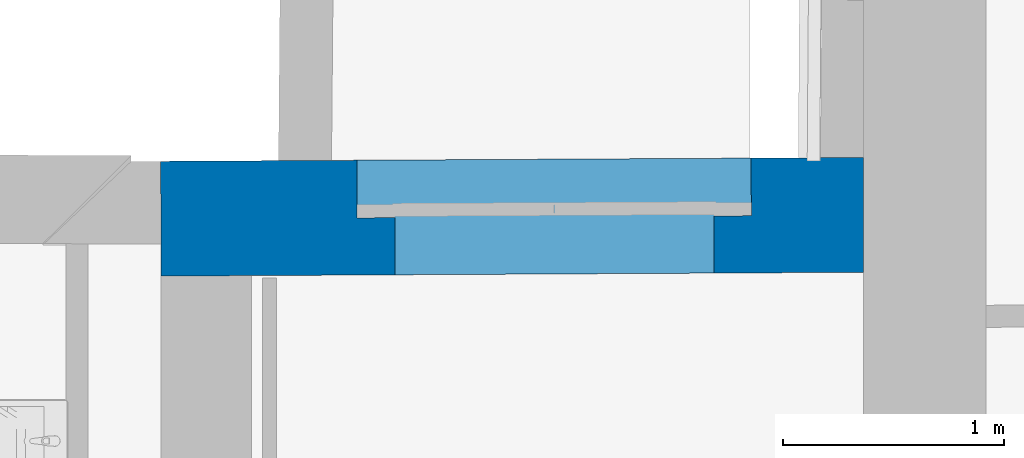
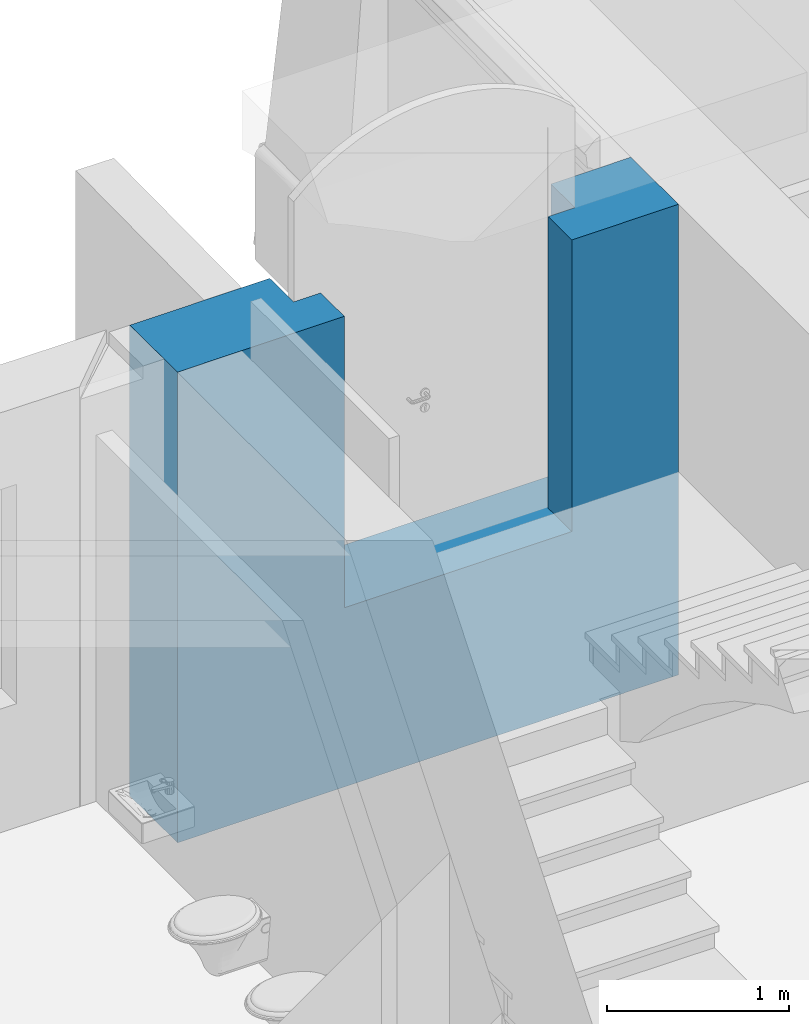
# One storey, part 64 of 196: 1 wall, 1 opening.
"""IFC2X3 building model written with IfcOpenShell, lengths in metres."""

from ifc_helpers import new_model, entity, si_unit, converted_unit, derived_unit, money_unit, direction, frame, origin_with_axes, place, context, subcontext, project, spatial, polyline, outline, extrude, boolean, faceted_brep, material, type_object, element, save


model = new_model("IFC2X3")

# Units and contexts
model_context = context("Model", 3, precision=1e-05, world=origin_with_axes(), true_north=direction((0.0, 1.0)))
body_context = subcontext(model_context, "Body", "Model", "MODEL_VIEW")
ifc_project = project(units=[si_unit("LENGTHUNIT", "METRE"), si_unit("AREAUNIT", "SQUARE_METRE"), si_unit("VOLUMEUNIT", "CUBIC_METRE"), converted_unit("PLANEANGLEUNIT", "DEGREE", entity("IfcPlaneAngleMeasure", 0.0174532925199), si_unit("PLANEANGLEUNIT", "RADIAN"), dimensions=[0, 0, 0, 0, 0, 0, 0]), money_unit("EUR"), converted_unit("TIMEUNIT", "Year", entity("IfcTimeMeasure", 31556926.0), si_unit("TIMEUNIT", "SECOND"), dimensions=[0, 0, 1, 0, 0, 0, 0]), si_unit("MASSUNIT", "GRAM", prefix="KILO"), si_unit("THERMODYNAMICTEMPERATUREUNIT", "DEGREE_CELSIUS"), si_unit("LUMINOUSINTENSITYUNIT", "LUMEN"), si_unit("ENERGYUNIT", "JOULE", prefix="MEGA"), derived_unit("THERMALCONDUCTANCEUNIT", [(si_unit("POWERUNIT", "WATT"), 1), (si_unit("LENGTHUNIT", "METRE"), -1), (si_unit("THERMODYNAMICTEMPERATUREUNIT", "KELVIN"), -1)]), derived_unit("SPECIFICHEATCAPACITYUNIT", [(si_unit("ENERGYUNIT", "JOULE"), 1), (si_unit("MASSUNIT", "GRAM", prefix="KILO"), -1), (si_unit("THERMODYNAMICTEMPERATUREUNIT", "KELVIN"), -1)]), derived_unit("MASSDENSITYUNIT", [(si_unit("MASSUNIT", "GRAM", prefix="KILO"), 1), (si_unit("VOLUMEUNIT", "CUBIC_METRE"), -1)])], contexts=[model_context])

# Site, building, storey
site_placement = place(None, origin_with_axes())
site = spatial("IfcSite", under=ifc_project, at=site_placement, Name="Gelände", CompositionType="ELEMENT")
building_placement = place(site_placement, origin_with_axes())
building = spatial("IfcBuilding", under=site, at=building_placement, Name="Gebäude", CompositionType="ELEMENT")
storey_placement = place(building_placement, frame((0.0, 0.0, -3.0), z_axis=(0.0, 0.0, 1.0), x_axis=(1.0, 0.0, 0.0)))
storey = spatial("IfcBuildingStorey", under=building, at=storey_placement, Name="KELLERGESCHOSS", CompositionType="ELEMENT", Elevation=-3.0)

# Wall, opening
ifc_material = material(Name="05_ALLGEMEIN - TRAGENDE BAUTEILE")
wall_type = type_object("IfcWallType", Name="05_ALLGEMEIN - TRAGENDE BAUTEILE 520", PredefinedType="ELEMENTEDWALL")
wall_placement = place(storey_placement, frame((24.4781768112, 26.1855696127, -0.36), z_axis=(0.0, 0.0, 1.0), x_axis=(-0.999985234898, -0.00543414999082, 0.0)))
wall = element("IfcWall", 1, at=wall_placement, inside=storey, type_object=wall_type, material=ifc_material, Name="Wand-031", ObjectType="ELEMENTEDWALL", context=body_context, shape_type="CSG", body=[
    boolean("DIFFERENCE", boolean("DIFFERENCE", extrude(outline(polyline([(-0.400032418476, 0.0), (2.98833904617, 0.0), (2.98833904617, 0.52), (-0.400032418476, 0.52), (-0.400032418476, 0.0)])), origin_with_axes(), (0.0, 0.0, 1.0), 3.15), faceted_brep([(2.98817055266, 0.374994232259, 3.15), (2.98833904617, 0.374992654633, 3.15), (2.98833904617, 0.400000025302, 3.15), (2.98817055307, 0.374994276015, 3.08), (2.98817055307, 0.374994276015, 0.34), (2.98817055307, 0.374994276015, 0.0), (2.98833904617, 0.374992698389, 0.0), (2.98833904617, 0.399999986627, 0.0)], [[[0, 1, 2]], [[1, 0, 3, 4, 5, 6]], [[7, 2, 1, 6]], [[0, 2, 7, 5, 4, 3]], [[5, 7, 6]]])), faceted_brep([(-0.194639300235, 0.0, 0.0), (-0.194639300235, 0.0, 3.15), (-0.400032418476, 0.0, 3.15), (-0.400032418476, 0.0, 0.0), (-0.191736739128, 0.52, 3.15), (-0.191736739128, 0.52, 0.0), (-0.400032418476, 0.52, 3.15), (-0.400032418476, 0.52, 0.0)], [[[0, 1, 2, 3]], [[4, 1, 0, 5]], [[1, 4, 6, 2]], [[6, 7, 3, 2]], [[5, 0, 3, 7]], [[4, 5, 7, 6]]])),
])
opening_placement = place(wall_placement, frame((1.20674259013, 0.0, 1.1987097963), z_axis=(0.0, 0.0, 1.0), x_axis=(1.0, 0.0, 0.0)))
element("IfcOpeningElement", 2, at=opening_placement, cuts=wall, Name="Tür-022", context=body_context, shape_type="SweptSolid", body=[
    extrude(outline(polyline([(-0.722459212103, 0.0), (-0.722459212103, -2.54676229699), (-0.633844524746, -2.6160768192), (-0.538625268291, -2.67599642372), (-0.437793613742, -2.72589675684), (-0.332400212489, -2.76525786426), (-0.223543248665, -2.79366960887), (-0.112356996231, -2.81083594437), (0.0, -2.816578), (0.112356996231, -2.81083594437), (0.223543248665, -2.79366960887), (0.332400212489, -2.76525786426), (0.437793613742, -2.72589675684), (0.538625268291, -2.67599642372), (0.633844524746, -2.6160768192), (0.722459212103, -2.54676229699), (0.722459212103, 0.0), (-0.722459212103, 0.0)])), frame((0.0, 0.260909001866, 0.0), z_axis=(0.0, 1.0, 0.0), x_axis=(1.0, 0.0, 0.0)), (0.0, 0.0, 1.0), 0.779090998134),
    extrude(outline(polyline([(0.892459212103, 0.0), (0.892459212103, 2.621), (0.80027261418, 2.70332743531), (0.700531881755, 2.77632032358), (0.59417851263, 2.83928965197), (0.482216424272, 2.89164102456), (0.365702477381, 2.93288027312), (0.245736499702, 2.96261812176), (0.123450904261, 2.9805738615), (0.0, 2.986578), (-0.123450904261, 2.9805738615), (-0.245736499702, 2.96261812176), (-0.365702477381, 2.93288027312), (-0.482216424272, 2.89164102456), (-0.59417851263, 2.83928965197), (-0.700531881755, 2.77632032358), (-0.80027261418, 2.70332743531), (-0.892459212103, 2.621), (-0.892459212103, 0.0), (0.892459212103, 0.0)])), frame((0.0, 0.200909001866, 0.0), z_axis=(0.0, -1.0, 0.0), x_axis=(1.0, 0.0, 0.0)), (0.0, 0.0, 1.0), 0.720909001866),
    extrude(outline(polyline([(0.892459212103, 0.0), (0.892459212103, 2.621), (0.80027261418, 2.70332743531), (0.700531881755, 2.77632032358), (0.59417851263, 2.83928965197), (0.482216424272, 2.89164102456), (0.365702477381, 2.93288027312), (0.245736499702, 2.96261812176), (0.123450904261, 2.9805738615), (0.0, 2.986578), (-0.123450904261, 2.9805738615), (-0.245736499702, 2.96261812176), (-0.365702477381, 2.93288027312), (-0.482216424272, 2.89164102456), (-0.59417851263, 2.83928965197), (-0.700531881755, 2.77632032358), (-0.80027261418, 2.70332743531), (-0.892459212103, 2.621), (-0.892459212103, 0.0), (0.892459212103, 0.0)])), frame((0.0, 0.200909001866, 0.0), z_axis=(0.0, -1.0, 0.0), x_axis=(1.0, 0.0, 0.0)), (0.0, 0.0, -1.0), 0.06),
])

save(model, "model.ifc")
